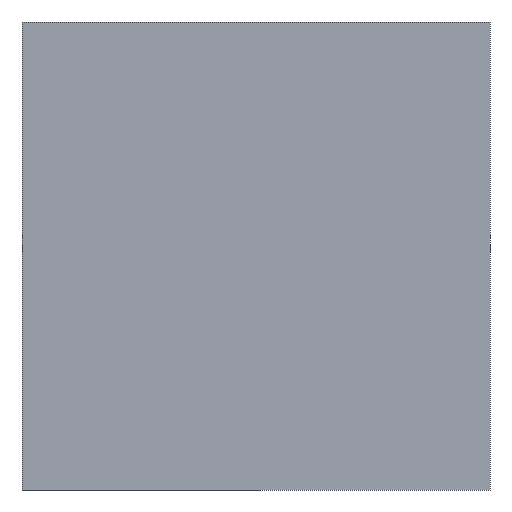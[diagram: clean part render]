
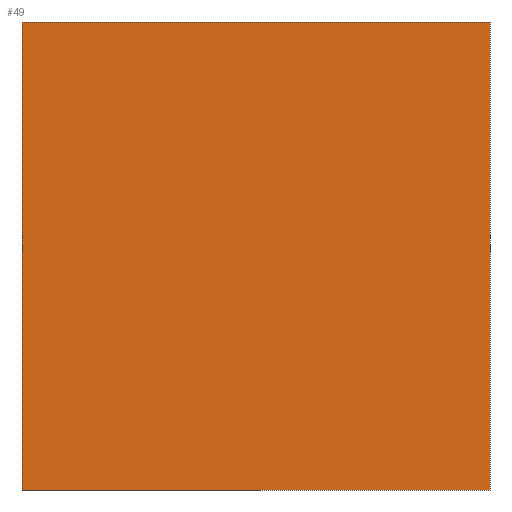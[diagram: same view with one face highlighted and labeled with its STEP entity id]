
A CAD part, front view. The second image highlights one B-rep face of the part: STEP entity #49.
In plain terms, the highlighted planar face has unit normal (0, -1, 0).
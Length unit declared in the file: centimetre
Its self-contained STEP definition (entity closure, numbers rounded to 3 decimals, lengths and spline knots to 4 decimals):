
#1 = DIRECTION ( 'NONE',  ( 0., 1., 0. ) ) ;
#7 = PLANE ( 'NONE',  #410 ) ;
#8 = ORIENTED_EDGE ( 'NONE', *, *, #120, .F. ) ;
#25 = CARTESIAN_POINT ( 'NONE',  ( 0., 0., 0. ) ) ;
#45 = CARTESIAN_POINT ( 'NONE',  ( 0., 0., 1000. ) ) ;
#49 = ADVANCED_FACE ( 'NONE', ( #287 ), #7, .F. ) ;
#57 = DIRECTION ( 'NONE',  ( 1., 0., 0. ) ) ;
#71 = LINE ( 'NONE', #284, #321 ) ;
#73 = DIRECTION ( 'NONE',  ( 0., 0., -1. ) ) ;
#98 = VECTOR ( 'NONE', #364, 100. ) ;
#104 = ORIENTED_EDGE ( 'NONE', *, *, #394, .T. ) ;
#120 = EDGE_CURVE ( 'NONE', #429, #216, #71, .T. ) ;
#122 = DIRECTION ( 'NONE',  ( 0., 0., 1. ) ) ;
#129 = ORIENTED_EDGE ( 'NONE', *, *, #197, .T. ) ;
#145 = VECTOR ( 'NONE', #323, 100. ) ;
#157 = CARTESIAN_POINT ( 'NONE',  ( 0., 0., 1000. ) ) ;
#174 = ORIENTED_EDGE ( 'NONE', *, *, #315, .F. ) ;
#178 = CARTESIAN_POINT ( 'NONE',  ( 0., 0., 0. ) ) ;
#197 = EDGE_CURVE ( 'NONE', #377, #216, #425, .T. ) ;
#198 = CARTESIAN_POINT ( 'NONE',  ( 0., 0., 1000. ) ) ;
#216 = VERTEX_POINT ( 'NONE', #346 ) ;
#242 = LINE ( 'NONE', #198, #98 ) ;
#268 = VECTOR ( 'NONE', #57, 100. ) ;
#284 = CARTESIAN_POINT ( 'NONE',  ( 1000., 0., 1000. ) ) ;
#287 = FACE_OUTER_BOUND ( 'NONE', #437, .T. ) ;
#315 = EDGE_CURVE ( 'NONE', #481, #429, #242, .T. ) ;
#321 = VECTOR ( 'NONE', #73, 100. ) ;
#323 = DIRECTION ( 'NONE',  ( 0., 0., -1. ) ) ;
#332 = LINE ( 'NONE', #157, #145 ) ;
#346 = CARTESIAN_POINT ( 'NONE',  ( 1000., 0., 0. ) ) ;
#364 = DIRECTION ( 'NONE',  ( 1., 0., 0. ) ) ;
#377 = VERTEX_POINT ( 'NONE', #178 ) ;
#384 = CARTESIAN_POINT ( 'NONE',  ( 0., 0., 1000. ) ) ;
#394 = EDGE_CURVE ( 'NONE', #481, #377, #332, .T. ) ;
#410 = AXIS2_PLACEMENT_3D ( 'NONE', #384, #1, #122 ) ;
#425 = LINE ( 'NONE', #25, #268 ) ;
#428 = CARTESIAN_POINT ( 'NONE',  ( 1000., 0., 1000. ) ) ;
#429 = VERTEX_POINT ( 'NONE', #428 ) ;
#437 = EDGE_LOOP ( 'NONE', ( #129, #8, #174, #104 ) ) ;
#481 = VERTEX_POINT ( 'NONE', #45 ) ;
